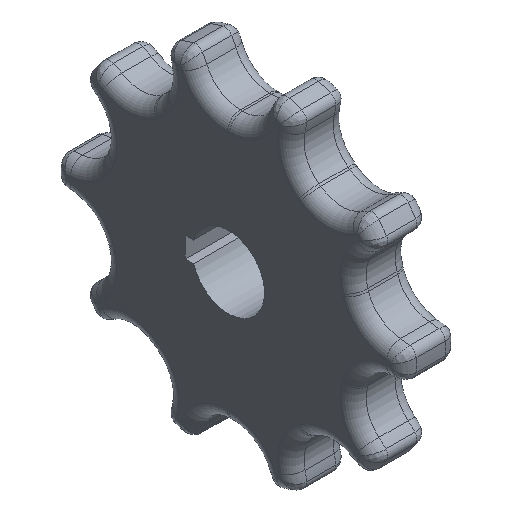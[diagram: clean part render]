
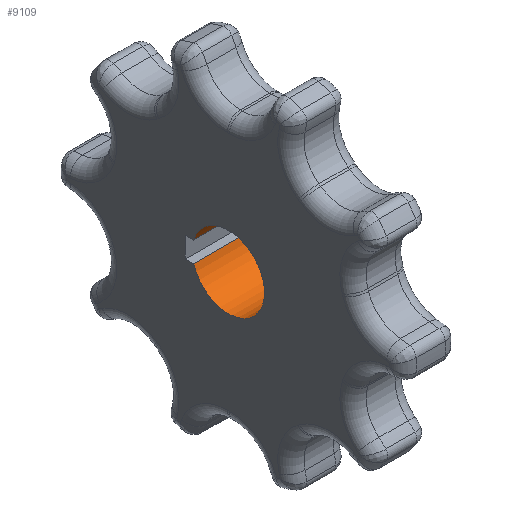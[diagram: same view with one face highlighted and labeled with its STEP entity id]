
A CAD part, isometric view. The second image highlights one B-rep face of the part: STEP entity #9109.
In plain terms, the highlighted cylindrical face has radius 17.501 mm (diameter 35.001 mm), a partial arc.
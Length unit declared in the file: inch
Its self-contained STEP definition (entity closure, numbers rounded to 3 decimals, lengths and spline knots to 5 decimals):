
#13=CARTESIAN_POINT('',(-0.5275,0.,0.));
#14=DIRECTION('',(1.,0.,0.));
#15=DIRECTION('',(0.,0.958,0.286));
#16=AXIS2_PLACEMENT_3D('',#13,#14,#15);
#183=CARTESIAN_POINT('',(0.5275,0.,0.));
#184=DIRECTION('',(1.,0.,0.));
#185=DIRECTION('',(0.,0.958,0.286));
#186=AXIS2_PLACEMENT_3D('',#183,#184,#185);
#3079=DIRECTION('',(-1.,0.,0.));
#3080=VECTOR('',#3079,1.055);
#3081=CARTESIAN_POINT('',(0.5275,0.66024,0.197));
#3082=LINE('',#3081,#3080);
#3083=DIRECTION('',(-1.,0.,0.));
#3084=VECTOR('',#3083,1.055);
#3085=CARTESIAN_POINT('',(0.5275,0.66024,-0.197));
#3086=LINE('',#3085,#3084);
#3092=CARTESIAN_POINT('',(-0.5275,0.66024,0.197));
#3094=VERTEX_POINT('',#3092);
#3098=CARTESIAN_POINT('',(0.5275,0.66024,0.197));
#3100=VERTEX_POINT('',#3098);
#3643=CARTESIAN_POINT('',(0.5275,0.66024,-0.197));
#3644=CARTESIAN_POINT('',(-0.5275,0.66024,-0.197));
#3645=VERTEX_POINT('',#3643);
#3646=VERTEX_POINT('',#3644);
#9097=CARTESIAN_POINT('',(0.642,0.,0.));
#9098=DIRECTION('',(1.,0.,0.));
#9099=DIRECTION('',(0.,0.,-1.));
#9100=AXIS2_PLACEMENT_3D('',#9097,#9098,#9099);
#9101=CYLINDRICAL_SURFACE('',#9100,0.689);
#9102=ORIENTED_EDGE('',*,*,#9089,.T.);
#9103=ORIENTED_EDGE('',*,*,#3780,.T.);
#9105=ORIENTED_EDGE('',*,*,#9104,.F.);
#9106=ORIENTED_EDGE('',*,*,#4164,.F.);
#9107=EDGE_LOOP('',(#9102,#9103,#9105,#9106));
#9108=FACE_OUTER_BOUND('',#9107,.F.);
#9109=ADVANCED_FACE('',(#9108),#9101,.F.);
#17=CIRCLE('',#16,0.689);
#187=CIRCLE('',#186,0.689);
#3780=EDGE_CURVE('',#3094,#3646,#17,.T.);
#4164=EDGE_CURVE('',#3100,#3645,#187,.T.);
#9089=EDGE_CURVE('',#3100,#3094,#3082,.T.);
#9104=EDGE_CURVE('',#3645,#3646,#3086,.T.);
